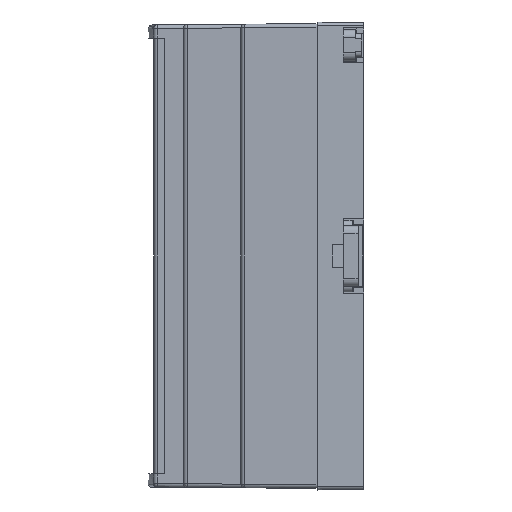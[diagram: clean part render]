
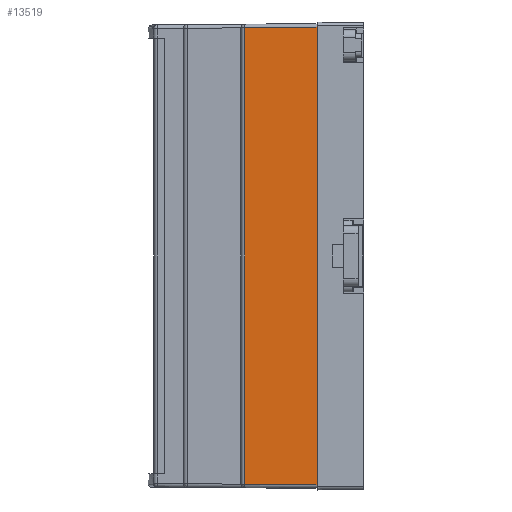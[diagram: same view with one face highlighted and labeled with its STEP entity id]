
A CAD part, left-side view. The second image highlights one B-rep face of the part: STEP entity #13519.
In plain terms, the highlighted planar face has unit normal (-1, 0.018, 0).
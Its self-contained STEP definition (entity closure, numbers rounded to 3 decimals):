
#46 = VERTEX_POINT ( 'NONE', #11415 ) ;
#440 = EDGE_LOOP ( 'NONE', ( #10971, #9270, #5403, #8619 ) ) ;
#457 = CARTESIAN_POINT ( 'NONE',  ( -45., -22.75, 61.65 ) ) ;
#920 = PLANE ( 'NONE',  #3505 ) ;
#1852 = LINE ( 'NONE', #16311, #15541 ) ;
#2221 = CARTESIAN_POINT ( 'NONE',  ( -44.659, -3.233, 61.521 ) ) ;
#2331 = DIRECTION ( 'NONE',  ( 0.017, 1., -0.007 ) ) ;
#3505 = AXIS2_PLACEMENT_3D ( 'NONE', #11540, #8949, #14241 ) ;
#4251 = VECTOR ( 'NONE', #2331, 1000. ) ;
#4958 = LINE ( 'NONE', #11553, #13210 ) ;
#5403 = ORIENTED_EDGE ( 'NONE', *, *, #8875, .F. ) ;
#6696 = EDGE_CURVE ( 'NONE', #14162, #8651, #10023, .T. ) ;
#8325 = EDGE_CURVE ( 'NONE', #8651, #46, #16708, .T. ) ;
#8619 = ORIENTED_EDGE ( 'NONE', *, *, #6696, .T. ) ;
#8651 = VERTEX_POINT ( 'NONE', #2221 ) ;
#8875 = EDGE_CURVE ( 'NONE', #14162, #10379, #1852, .T. ) ;
#8886 = DIRECTION ( 'NONE',  ( -0.017, -1., -0.007 ) ) ;
#8949 = DIRECTION ( 'NONE',  ( 1., -0.017, 0. ) ) ;
#8955 = CARTESIAN_POINT ( 'NONE',  ( -44.659, -3.233, 62.65 ) ) ;
#9270 = ORIENTED_EDGE ( 'NONE', *, *, #10558, .T. ) ;
#10023 = LINE ( 'NONE', #16980, #4251 ) ;
#10379 = VERTEX_POINT ( 'NONE', #10821 ) ;
#10558 = EDGE_CURVE ( 'NONE', #46, #10379, #4958, .T. ) ;
#10821 = CARTESIAN_POINT ( 'NONE',  ( -45., -22.75, -61.65 ) ) ;
#10971 = ORIENTED_EDGE ( 'NONE', *, *, #8325, .T. ) ;
#11415 = CARTESIAN_POINT ( 'NONE',  ( -44.659, -3.233, -61.521 ) ) ;
#11540 = CARTESIAN_POINT ( 'NONE',  ( -44.642, -2.25, 62.65 ) ) ;
#11553 = CARTESIAN_POINT ( 'NONE',  ( -44.628, -1.432, -61.51 ) ) ;
#13034 = DIRECTION ( 'NONE',  ( 0., 0., -1. ) ) ;
#13210 = VECTOR ( 'NONE', #8886, 1000. ) ;
#13519 = ADVANCED_FACE ( 'NONE', ( #15464 ), #920, .F. ) ;
#13582 = VECTOR ( 'NONE', #13034, 1000. ) ;
#14162 = VERTEX_POINT ( 'NONE', #457 ) ;
#14241 = DIRECTION ( 'NONE',  ( 0.017, 1., 0. ) ) ;
#15092 = DIRECTION ( 'NONE',  ( 0., 0., -1. ) ) ;
#15464 = FACE_OUTER_BOUND ( 'NONE', #440, .T. ) ;
#15541 = VECTOR ( 'NONE', #15092, 1000. ) ;
#16311 = CARTESIAN_POINT ( 'NONE',  ( -45., -22.75, 62.65 ) ) ;
#16708 = LINE ( 'NONE', #8955, #13582 ) ;
#16980 = CARTESIAN_POINT ( 'NONE',  ( -44.642, -2.257, 61.515 ) ) ;
